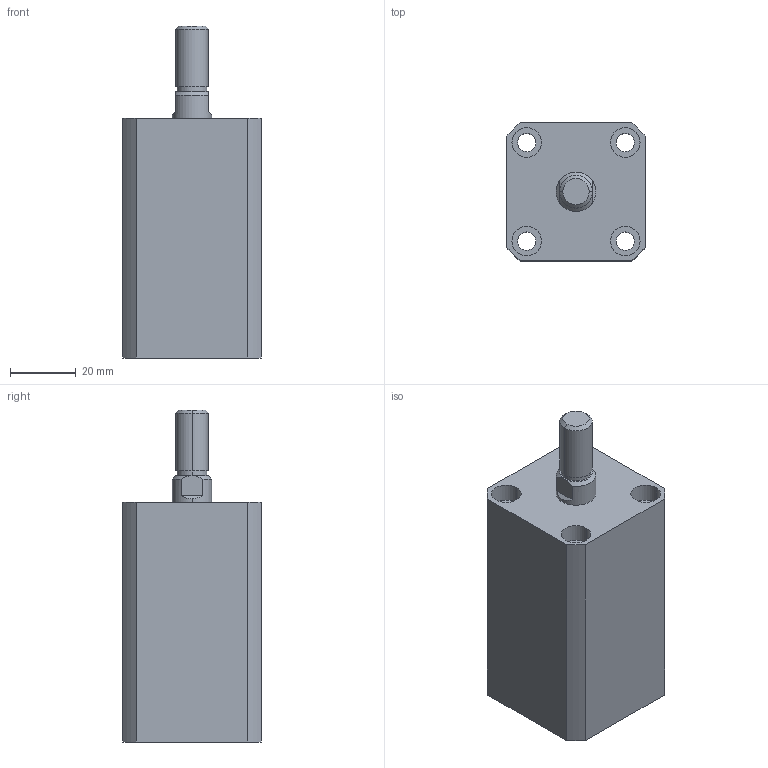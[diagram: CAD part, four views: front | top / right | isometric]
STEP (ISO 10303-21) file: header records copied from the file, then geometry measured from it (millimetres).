
FILE_DESCRIPTION (( 'STEP AP203' ), '1' );
FILE_NAME ('HTB-SDMB20-30W.STEP', '2019-10-08T11:55:41', ( '微软用户' ), ( '微软中国' ), 'SwSTEP 2.0', 'SolidWorks 2012', '' );
FILE_SCHEMA (( 'CONFIG_CONTROL_DESIGN' ));
Length unit declared in the file: millimetre
Products named in the file (3): HTB-SDMB20-30掛极; HTB-SDMB20-30W活塞杆; HTB-SDMB20-30W
Assembly tree (2 placements, depth 2):
  HTB-SDMB20-30W
    HTB-SDMB20-30掛极
    HTB-SDMB20-30W活塞杆
Bounding box: 42 x 42 x 101 mm (x, y, z)
Volume: 113738.2 mm3; surface area: 28971.6 mm2
Topology: 2 solids, 2 shells, 140 faces, 332 edges, 218 vertices
Faces by surface type: plane 66, cylinder 48, bspline 16, torus 6, cone 4
Entity records: 5129 total; most frequent: CARTESIAN_POINT 1587, ORIENTED_EDGE 664, DIRECTION 662, EDGE_CURVE 332, AXIS2_PLACEMENT_3D 241, VERTEX_POINT 218, VECTOR 180, LINE 180
